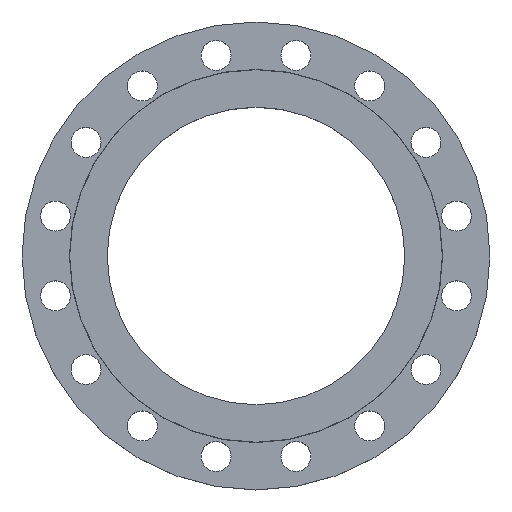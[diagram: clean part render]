
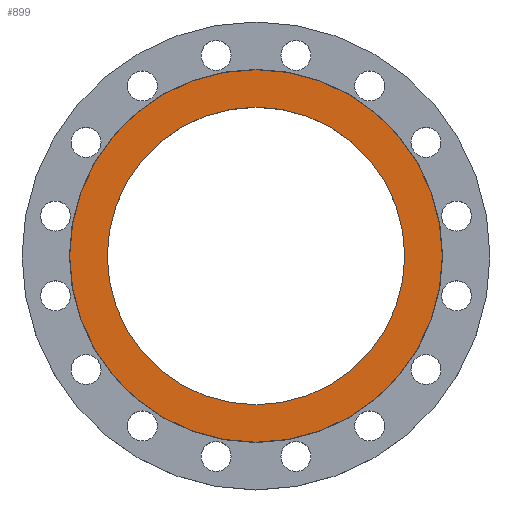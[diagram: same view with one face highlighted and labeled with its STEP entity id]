
A CAD part, top view. The second image highlights one B-rep face of the part: STEP entity #899.
In plain terms, the highlighted planar face has unit normal (0, 0, 1).
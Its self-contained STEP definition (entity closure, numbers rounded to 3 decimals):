
#89 = CIRCLE ( 'NONE', #94, 163.75 ) ;
#94 = AXIS2_PLACEMENT_3D ( 'NONE', #714, #712, #711 ) ;
#108 = AXIS2_PLACEMENT_3D ( 'NONE', #688, #687, #686 ) ;
#229 = CARTESIAN_POINT ( 'NONE',  ( -205., 0., 0. ) ) ;
#271 = CIRCLE ( 'NONE', #278, 205. ) ;
#278 = AXIS2_PLACEMENT_3D ( 'NONE', #331, #330, #329 ) ;
#327 = CARTESIAN_POINT ( 'NONE',  ( -163.75, 0., 0. ) ) ;
#329 = DIRECTION ( 'NONE',  ( -1., 0., 0. ) ) ;
#330 = DIRECTION ( 'NONE',  ( 0., 0., -1. ) ) ;
#331 = CARTESIAN_POINT ( 'NONE',  ( 0., 0., 0. ) ) ;
#348 = DIRECTION ( 'NONE',  ( -1., 0., 0. ) ) ;
#349 = DIRECTION ( 'NONE',  ( 0., 0., -1. ) ) ;
#351 = CARTESIAN_POINT ( 'NONE',  ( 0., 0., 0. ) ) ;
#507 = CARTESIAN_POINT ( 'NONE',  ( 163.75, 0., 0. ) ) ;
#518 = CARTESIAN_POINT ( 'NONE',  ( 205., 0., 0. ) ) ;
#577 = EDGE_CURVE ( 'NONE', #1279, #1131, #942, .T. ) ;
#686 = DIRECTION ( 'NONE',  ( 1., 0., 0. ) ) ;
#687 = DIRECTION ( 'NONE',  ( 0., 0., 1. ) ) ;
#688 = CARTESIAN_POINT ( 'NONE',  ( 0., 0., 0. ) ) ;
#690 = PLANE ( 'NONE',  #108 ) ;
#691 = FACE_OUTER_BOUND ( 'NONE', #1104, .T. ) ;
#692 = FACE_BOUND ( 'NONE', #1045, .T. ) ;
#711 = DIRECTION ( 'NONE',  ( 1., 0., 0. ) ) ;
#712 = DIRECTION ( 'NONE',  ( 0., 0., 1. ) ) ;
#714 = CARTESIAN_POINT ( 'NONE',  ( 0., 0., 0. ) ) ;
#737 = DIRECTION ( 'NONE',  ( 1., 0., 0. ) ) ;
#738 = DIRECTION ( 'NONE',  ( 0., 0., 1. ) ) ;
#740 = CARTESIAN_POINT ( 'NONE',  ( 0., 0., 0. ) ) ;
#787 = EDGE_CURVE ( 'NONE', #1131, #1279, #89, .T. ) ;
#899 = ADVANCED_FACE ( 'NONE', ( #692, #691 ), #690, .T. ) ;
#942 = CIRCLE ( 'NONE', #953, 163.75 ) ;
#953 = AXIS2_PLACEMENT_3D ( 'NONE', #740, #738, #737 ) ;
#1036 = CIRCLE ( 'NONE', #1046, 205. ) ;
#1045 = EDGE_LOOP ( 'NONE', ( #1427, #1428 ) ) ;
#1046 = AXIS2_PLACEMENT_3D ( 'NONE', #351, #349, #348 ) ;
#1104 = EDGE_LOOP ( 'NONE', ( #1429, #1430 ) ) ;
#1122 = VERTEX_POINT ( 'NONE', #518 ) ;
#1131 = VERTEX_POINT ( 'NONE', #507 ) ;
#1253 = EDGE_CURVE ( 'NONE', #1122, #1486, #1036, .T. ) ;
#1277 = EDGE_CURVE ( 'NONE', #1486, #1122, #271, .T. ) ;
#1279 = VERTEX_POINT ( 'NONE', #327 ) ;
#1427 = ORIENTED_EDGE ( 'NONE', *, *, #787, .F. ) ;
#1428 = ORIENTED_EDGE ( 'NONE', *, *, #577, .F. ) ;
#1429 = ORIENTED_EDGE ( 'NONE', *, *, #1277, .F. ) ;
#1430 = ORIENTED_EDGE ( 'NONE', *, *, #1253, .F. ) ;
#1486 = VERTEX_POINT ( 'NONE', #229 ) ;
